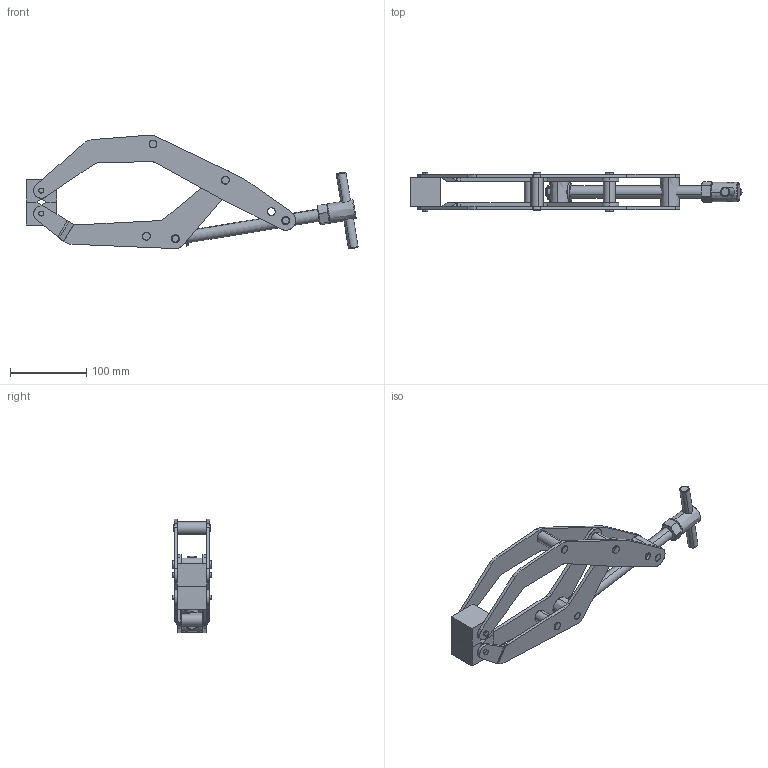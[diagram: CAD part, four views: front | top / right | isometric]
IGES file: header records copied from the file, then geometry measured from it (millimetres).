
Start section: SolidWorks IGES file using analytic representation for surfaces
Global section: file name: C:\Projetos\Grampos\Alicates\KFA-300\KFA-300.igs; native system: SolidWorks 2011; preprocessor: SolidWorks 2011; author: Usuario; date: 110512.122040; units: millimetre
Bounding box: 434.36 x 52 x 148.78 mm (x, y, z)
Surface area: 154722.5 mm2 (no closed solid volume)
Topology: 0 solids, 0 shells, 319 faces, 5584 edges, 5584 vertices
Faces by surface type: revolution 194, bspline 125
